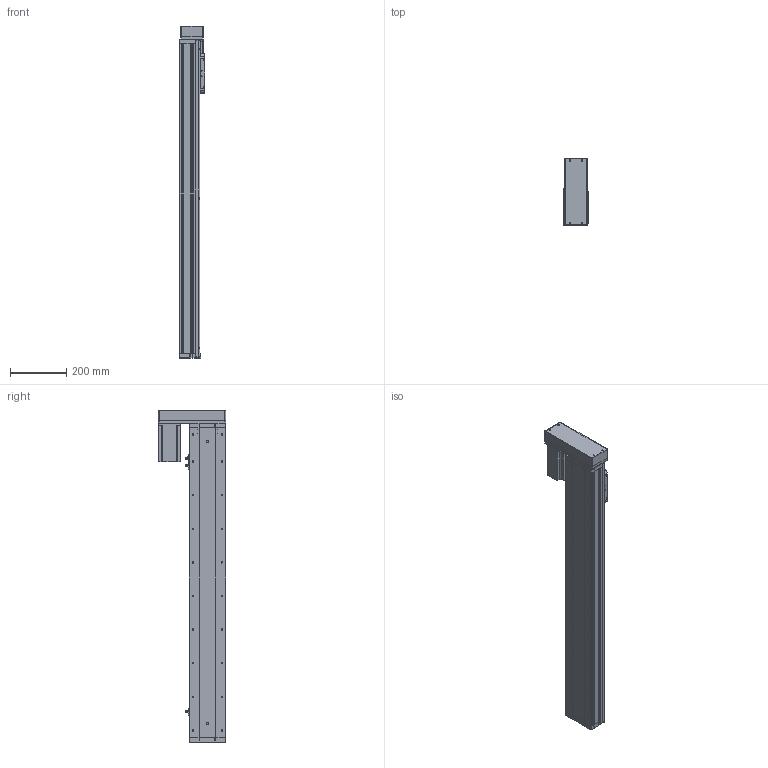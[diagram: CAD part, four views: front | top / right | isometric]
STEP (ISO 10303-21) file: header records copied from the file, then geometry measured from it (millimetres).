
FILE_DESCRIPTION (( 'STEP AP214' ), '1' );
FILE_NAME ('KSD130S-P2010-ML-CR-S900.STEP', '2019-09-24T06:30:30', ( '微软用户' ), ( '微软中国' ), 'SwSTEP 2.0', 'SolidWorks 2014', '' );
FILE_SCHEMA (( 'AUTOMOTIVE_DESIGN' ));
Length unit declared in the file: millimetre
Products named in the file (14): 130宽滚珠螺姆安装板1; 130宽侧板全封闭-900行程; 130宽全封闭马达安装板丝杠; 130宽全封闭端盖丝杠; 130宽底板全封闭丝杠-900行程; 台达ECMA－C20807AS伺服电机; 130宽模组保护罩左右折; KSD130S-P2010-ML-CR-S900; 130宽模组马达安装板连板左右折丝杆; 感应片130宽全封闭; U倰嫖萇EEㄜSX672; 130遵裔啣揤啣1; 130宽盖板全封闭-900行程; 130宽滚珠螺姆安装板1防护罩
Assembly tree (17 placements, depth 2):
  KSD130S-P2010-ML-CR-S900
    130宽底板全封闭丝杠-900行程
    130宽全封闭端盖丝杠
    130宽全封闭马达安装板丝杠
    130宽侧板全封闭-900行程  x2
    130宽滚珠螺姆安装板1
    130宽滚珠螺姆安装板1防护罩
    130宽盖板全封闭-900行程
    130遵裔啣揤啣1  x2
    U倰嫖萇EEㄜSX672  x3
    感应片130宽全封闭
    130宽模组马达安装板连板左右折丝杆
    台达ECMA－C20807AS伺服电机
    130宽模组保护罩左右折
Bounding box: 90 x 240 x 1184.5 mm (x, y, z)
Volume: 4302209.4 mm3; surface area: 1386671 mm2
Topology: 18 solids, 18 shells, 1534 faces, 4168 edges, 2609 vertices
Faces by surface type: cylinder 684, plane 611, cone 239
Entity records: 46818 total; most frequent: DIRECTION 7135, CARTESIAN_POINT 6981, ORIENTED_EDGE 6566, EDGE_CURVE 3283, AXIS2_PLACEMENT_3D 2579, VERTEX_POINT 2139, VECTOR 1977, LINE 1977
